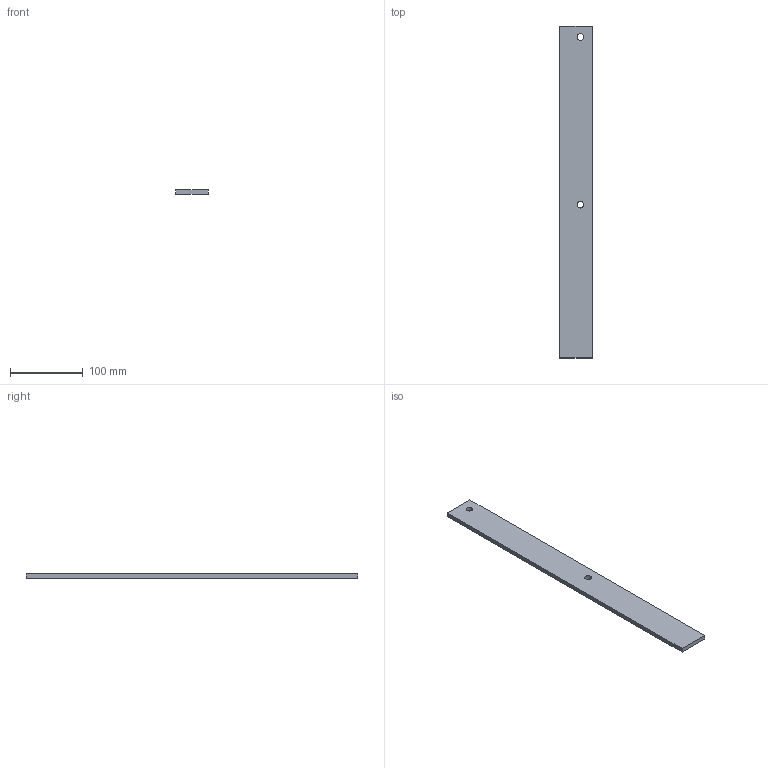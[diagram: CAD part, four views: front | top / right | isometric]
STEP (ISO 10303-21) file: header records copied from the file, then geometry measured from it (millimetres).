
FILE_DESCRIPTION(('Open CASCADE Model'),'2;1');
FILE_NAME('Open CASCADE Shape Model','2026-10-19T10:09:20',('Author'),( 'Open CASCADE'),'Open CASCADE STEP processor 8.0','Open CASCADE 8.0' ,'Unknown');
FILE_SCHEMA(('AUTOMOTIVE_DESIGN { 1 0 10303 214 1 1 1 1 }'));
Length unit declared in the file: millimetre
Products named in the file (1): MG05_INF_2_P05 78
Bounding box: 44 x 455 x 6 mm (x, y, z)
Volume: 119356.6 mm3; surface area: 46112.8 mm2
Topology: 1 solids, 1 shells, 8 faces, 18 edges, 12 vertices
Faces by surface type: plane 6, cylinder 2
Full cylindrical faces by diameter (mm): 9 x2
Entity records: 490 total; most frequent: CARTESIAN_POINT 99, DIRECTION 72, LINE 46, VECTOR 46, ORIENTED_EDGE 36, PCURVE 36, DEFINITIONAL_REPRESENTATION 36, EDGE_CURVE 18
